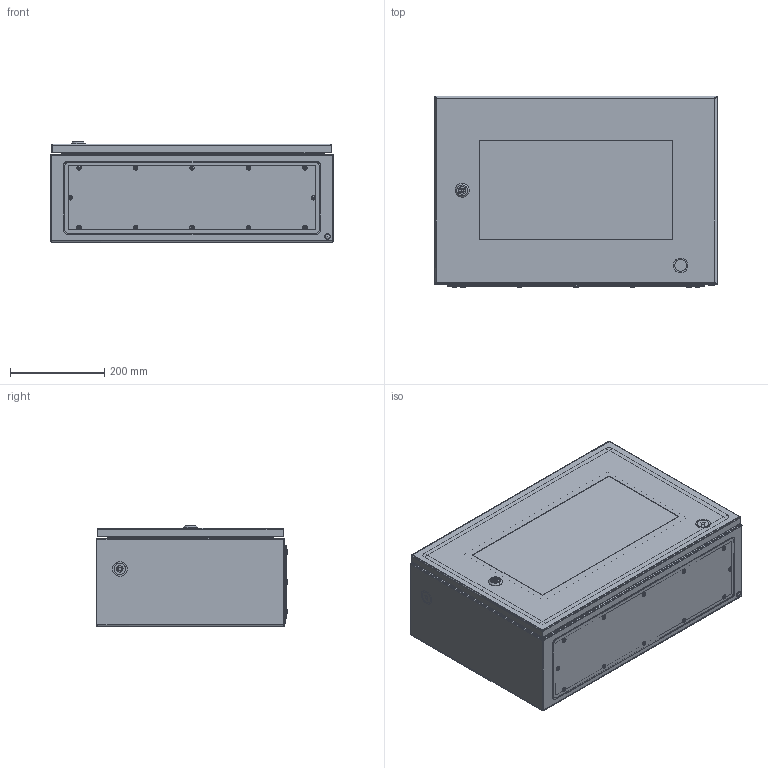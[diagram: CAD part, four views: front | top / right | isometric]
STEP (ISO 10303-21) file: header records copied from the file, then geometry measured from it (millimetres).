
FILE_DESCRIPTION (( 'STEP AP214' ), '1' );
FILE_NAME ('CCV 40.60.21.STEP', '2025-09-18T13:34:41', ( '' ), ( '' ), 'SwSTEP 2.0', 'SolidWorks 2019', '' );
FILE_SCHEMA (( 'AUTOMOTIVE_DESIGN' ));
Length unit declared in the file: millimetre
Products named in the file (27): Ïåòëÿ KIT_Ìîäóëü_êîðïóñíàÿ ÷àñòü â ñáîðå; plain washer grade a_din_Washer DIN 125 - A 5.3; Ãàéêà Ì8 DIN 934; Essentra_d6,3_1287228; Essentra_d9.3_055009300003; Âèíò ðåçüáîâûäàâëèâàþùèé ñ ïîëóïîòàéíîé ãîëîâêîé Ì5õ12; Ïåòëÿ KIT_Ìîäóëü_êîðïóñíàÿ ÷àñòü; MPC X.Y Ïàíåëü ìîíòàæíàÿ_MPC 40.60; Øïèëüêà Ì8õ25; ßçû÷îê çàìêà LC 5DB.S; Øïèëüêà çàçåìëåíèÿ Ì6õ17,5_˜¯¨«ìª  § §¥¬«¥­¨ï Œ6å17,5 á ª®«¯ çª®¬; pan head cross recess screw_din_DIN EN ISO 7045 - M5 x 6 - Z - 6N; CCV X.Y.02.000蚜 拟屦黖CCV 40.60; KIT_Çàæèìíîå êîëüöî_ïîëèîêñèìåòèëåí_ô5_EMKA 1031-U16; CCV X.Y.02.002 栺樏鋋_CCV 40.60; Ïåòëÿ ïðèâàðíàÿ ÷àñòü; CCV X.Y.02.001 拟屦黖CCV 40.60; PKV Y.15 相礤朦 赅徨朦眍泐 忖钿郷PKV 60(15); KIT_Øòèôò_ô5_Ìîäóëü; CCV 40.60.21; Øïèëüêà çàçåìëåíèÿ Ì6õ17,5_˜¯¨«ìª  § §¥¬«¥­¨ï Œ6å17,5; hex flange nut_din_Hexagon Flange Nut DIN 6923 - M8 - N; CCS X.Y.Z.01.001 扻豵鵨_CCS 40.60.21; CCS X.Y.Z.01.000捘 扻豵鵨_CCS 40.60.21; Çàìîê LC 5DB.S_‡ ¬®ª LC 5DB.S_45mm; ﾇ瑟鶴 LC 5DB.S
Assembly tree (56 placements, depth 3):
  CCV 40.60.21
    CCS X.Y.Z.01.000捘 扻豵鵨_CCS 40.60.21
      CCS X.Y.Z.01.001 扻豵鵨_CCS 40.60.21
      Øïèëüêà çàçåìëåíèÿ Ì6õ17,5_˜¯¨«ìª  § §¥¬«¥­¨ï Œ6å17,5  x2
      Øïèëüêà Ì8õ25  x4
    Ïåòëÿ KIT_Ìîäóëü_êîðïóñíàÿ ÷àñòü â ñáîðå
      Ïåòëÿ KIT_Ìîäóëü_êîðïóñíàÿ ÷àñòü
      KIT_Øòèôò_ô5_Ìîäóëü
      KIT_Çàæèìíîå êîëüöî_ïîëèîêñèìåòèëåí_ô5_EMKA 1031-U16
    Ïåòëÿ KIT_Ìîäóëü_êîðïóñíàÿ ÷àñòü â ñáîðå
      Ïåòëÿ KIT_Ìîäóëü_êîðïóñíàÿ ÷àñòü
      KIT_Øòèôò_ô5_Ìîäóëü
      KIT_Çàæèìíîå êîëüöî_ïîëèîêñèìåòèëåí_ô5_EMKA 1031-U16
    CCV X.Y.02.000蚜 拟屦黖CCV 40.60
      CCV X.Y.02.001 拟屦黖CCV 40.60
      Øïèëüêà çàçåìëåíèÿ Ì6õ17,5_˜¯¨«ìª  § §¥¬«¥­¨ï Œ6å17,5 á ª®«¯ çª®¬
      CCV X.Y.02.002 栺樏鋋_CCV 40.60
      Ïåòëÿ ïðèâàðíàÿ ÷àñòü  x2
    MPC X.Y Ïàíåëü ìîíòàæíàÿ_MPC 40.60
    PKV Y.15 相礤朦 赅徨朦眍泐 忖钿郷PKV 60(15)
    pan head cross recess screw_din_DIN EN ISO 7045 - M5 x 6 - Z - 6N  x2
    plain washer grade a_din_Washer DIN 125 - A 5.3  x2
    Ãàéêà Ì8 DIN 934  x4
    hex flange nut_din_Hexagon Flange Nut DIN 6923 - M8 - N  x4
    Âèíò ðåçüáîâûäàâëèâàþùèé ñ ïîëóïîòàéíîé ãîëîâêîé Ì5õ12  x14
    Essentra_d9.3_055009300003
    Essentra_d6,3_1287228  x2
    Çàìîê LC 5DB.S_‡ ¬®ª LC 5DB.S_45mm
      ﾇ瑟鶴 LC 5DB.S
      ßçû÷îê çàìêà LC 5DB.S
Bounding box: 600 x 406.62 x 213.45 mm (x, y, z)
Volume: 2067709.9 mm3; surface area: 2561002.3 mm2
Topology: 54 solids, 54 shells, 2222 faces, 5501 edges, 3394 vertices
Faces by surface type: plane 883, cylinder 773, cone 266, bspline 136, torus 119, sphere 45
Entity records: 49983 total; most frequent: CARTESIAN_POINT 20224, ORIENTED_EDGE 5894, DIRECTION 5780, EDGE_CURVE 2947, AXIS2_PLACEMENT_3D 2160, VERTEX_POINT 1827, VECTOR 1460, LINE 1460
